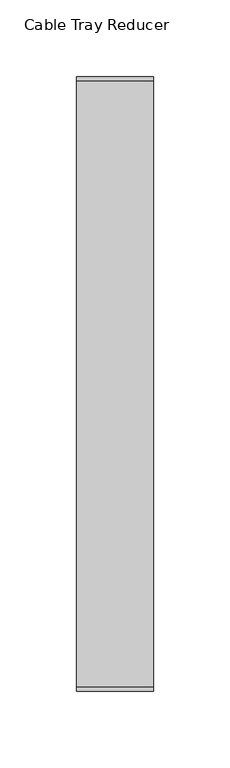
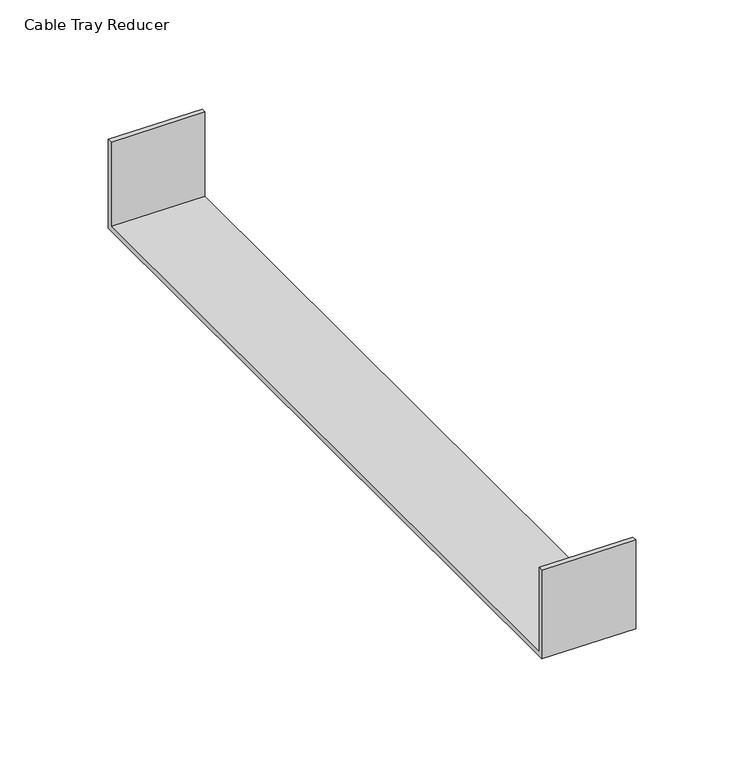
"""IFC4 building model written with IfcOpenShell, lengths in millimetres: cable carrier fitting geometry, Cable Tray Reducer : ELEC_SUB_CT_N2402."""

from ifc_helpers import new_model, si_unit, origin, place, context, project, spatial, faceted_brep, source, transform, mapped, element, save


def cable_tray_reducer_f8bedf25(model_context):
    return source(origin(), model_context, "Body", "Brep", [
        faceted_brep([(50.0, -200.0, -25.4999999), (50.0, 200.0, -25.4999999), (50.0, 200.0, 24.5000001), (50.0, 197.46, 24.5000001), (50.0, 197.46, -22.9599999), (50.0, -197.46, -22.9599999), (50.0, -197.46, 24.5000001), (50.0, -200.0, 24.5000001), (0.0, -200.0, -25.0), (0.0, -200.0, 25.0), (0.0, -197.46, 25.0), (0.0, -197.46, -22.46), (0.0, 197.46, -22.46), (0.0, 197.46, 25.0), (0.0, 200.0, 25.0), (0.0, 200.0, -25.0)], [[[0, 1, 2, 3, 4, 5, 6, 7]], [[8, 9, 10, 11, 12, 13, 14, 15]], [[8, 15, 1, 0]], [[15, 14, 2, 1]], [[14, 13, 3, 2]], [[13, 12, 4, 3]], [[12, 11, 5, 4]], [[11, 10, 6, 5]], [[10, 9, 7, 6]], [[9, 8, 0, 7]]]),
    ])


if __name__ == "__main__":
    model = new_model("IFC4")
    model_context = context("Model", 3, world=origin())
    ifc_project = project(units=[si_unit("LENGTHUNIT", "METRE", prefix="MILLI")], contexts=[model_context])
    site = spatial("IfcSite", under=ifc_project)
    building = spatial("IfcBuilding", under=site)
    placement = place(None, origin())
    cable_tray_reducer_shape = cable_tray_reducer_f8bedf25(model_context)
    element("IfcCableCarrierFitting", 1, ObjectType="Cable Tray Reducer : ELEC_SUB_CT_N2402", at=placement, inside=building, context=model_context, shape_type="MappedRepresentation", body=[
        mapped(cable_tray_reducer_shape, transform((0.0, 0.0, 0.0), x_axis=(1.0, 0.0, 0.0), y_axis=(0.0, 1.0, 0.0), z_axis=(0.0, 0.0, 1.0))),
    ])
    save(model, "model.ifc")
